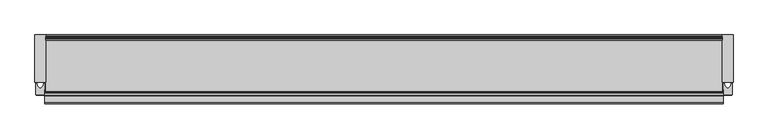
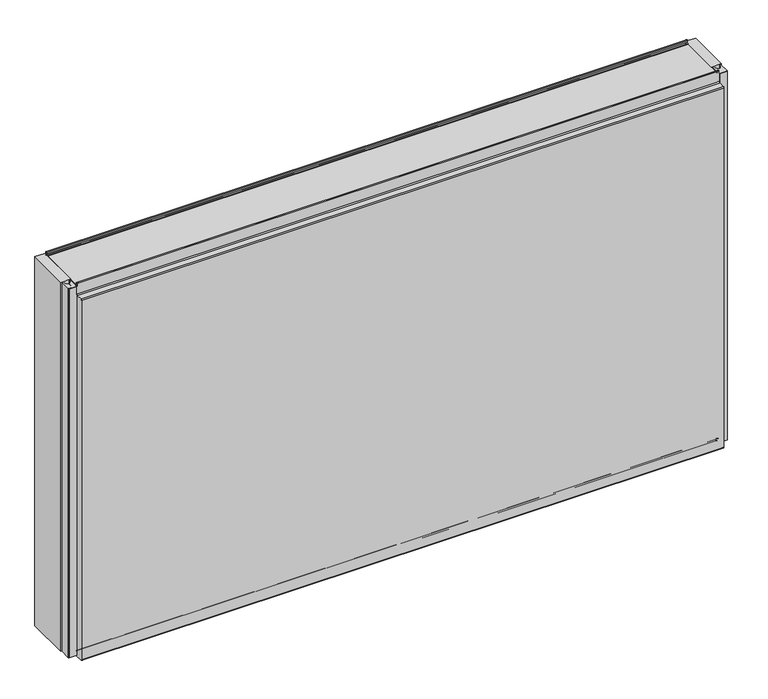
"""IFC4 building model written with IfcOpenShell, lengths in millimetres: plate geometry, Fronttop : Fronttop 200/1200."""

from ifc_helpers import new_model, si_unit, point, frame, frame_2d, origin, origin_with_axes, place, context, project, spatial, polyline, circle_curve, trimmed, segment, composite_curve, outline, extrude, source, transform, mapped, element, save
from ifc_brep_helpers import plane_surface, cylinder_surface, revolved_surface, advanced_brep


def plate_2dff6574(model_context):
    return source(origin(), model_context, "Body", "SolidModel", [
        advanced_brep(
        [(-986.5, -174.0, 1208.0), (-986.5, -174.0, 1200.0), (-986.5, -175.0, 1200.0), (-986.5, -175.0, 1208.0), (-986.5, -170.0, 1208.0), (-986.5, -170.0, 1204.0), (-986.5, -167.0, 1201.0), (-986.5, -165.0, 1201.0), (-986.5, -165.0, 1200.0), (-986.5, -167.0, 1200.0), (-986.5, -171.0, 1204.0), (-986.5, -171.0, 1208.0), (986.5, -175.0, 1208.0), (986.5, -175.0, 1200.0), (986.5, -174.0, 1200.0), (986.5, -174.0, 1208.0), (986.5, -171.0, 1208.0), (986.5, -171.0, 1204.0), (986.5, -167.0, 1200.0), (986.5, -165.0, 1200.0), (986.5, -165.0, 1201.0), (986.5, -167.0, 1201.0), (986.5, -170.0, 1204.0), (986.5, -170.0, 1208.0), (-986.5, -167.0, 2.0), (-986.5, -165.0, 2.0), (986.5, -165.0, 2.0), (986.5, -167.0, 2.0), (986.5, -169.0, 4.0), (-986.5, -169.0, 4.0), (986.5, -169.0, 8.0), (-986.5, -169.0, 8.0), (986.5, -176.0, 8.0), (-986.5, -176.0, 8.0), (986.5, -176.0, 0.0), (-986.5, -176.0, 0.0), (986.5, -179.0, -3.0), (-986.5, -179.0, -3.0), (986.5, -175.0, -3.0), (987.5, -175.0, -3.0), (987.5, -197.0, -3.0), (986.5, -197.0, -3.0), (-986.5, -197.0, -3.0), (-987.5, -197.0, -3.0), (-987.5, -175.0, -3.0), (-986.5, -175.0, -3.0), (986.5, -200.0, 0.0), (-986.5, -200.0, 0.0), (987.5, -200.0, 0.0), (987.5, -200.0, 1169.0), (986.5, -200.0, 1169.0), (-986.5, -200.0, 1169.0), (-987.5, -200.0, 1169.0), (-987.5, -200.0, 0.0), (986.5, -197.0, 1172.0), (-986.5, -197.0, 1172.0), (987.5, -197.0, 1172.0), (987.5, -178.0, 1172.0), (986.5, -178.0, 1172.0), (-986.5, -178.0, 1172.0), (-987.5, -178.0, 1172.0), (-987.5, -197.0, 1172.0), (986.5, -175.0, 1175.0), (-986.5, -175.0, 1175.0), (987.5, -175.0, 1175.0), (987.5, -175.0, 1200.0), (-987.5, -175.0, 1200.0), (-987.5, -175.0, 1175.0), (986.5, -174.0, 1175.0), (-986.5, -174.0, 1175.0), (986.5, -178.0, 1171.0), (-986.5, -178.0, 1171.0), (986.5, -197.0, 1171.0), (-986.5, -197.0, 1171.0), (986.5, -199.0, 1169.0), (-986.5, -199.0, 1169.0), (986.5, -199.0, 0.0), (-986.5, -199.0, 0.0), (986.5, -197.0, -2.0), (-986.5, -197.0, -2.0), (986.5, -179.0, -2.0), (-986.5, -179.0, -2.0), (986.5, -177.0, 0.0), (-986.5, -177.0, 0.0), (986.5, -177.0, 8.0), (-986.5, -177.0, 8.0), (986.5, -168.0, 8.0), (-986.5, -168.0, 8.0), (986.5, -168.0, 4.0), (-986.5, -168.0, 4.0), (986.5, -167.0, 3.0), (-986.5, -167.0, 3.0), (986.5, -165.0, 3.0), (-986.5, -165.0, 3.0), (987.5, -175.0, 0.0), (987.5, -160.0, 0.0), (987.5, -160.0, 1200.0), (986.5, -160.0, 1200.0), (986.5, -160.0, 0.0), (986.5, -175.0, 0.0), (-987.5, -160.0, 1200.0), (-987.5, -160.0, 0.0), (-987.5, -175.0, 0.0), (-986.5, -160.0, 1200.0), (-986.5, -175.0, 0.0), (-986.5, -160.0, 0.0)],
        [
            (0, 1),
            (1, 2),
            (2, 3),
            (3, 4, circle_curve(frame((-986.5, -172.5, 1208.0), z_axis=(-1.0, 0.0, 0.0), x_axis=(0.0, 1.0, 0.0)), 2.5)),
            (4, 5),
            (5, 6, circle_curve(frame((-986.5, -167.0, 1204.0), z_axis=(1.0, 0.0, 0.0), x_axis=(0.0, 1.0, 0.0)), 3.0)),
            (6, 7),
            (7, 8),
            (8, 9),
            (9, 10, circle_curve(frame((-986.5, -167.0, 1204.0), z_axis=(-1.0, 0.0, 0.0), x_axis=(0.0, 1.0, 0.0)), 4.0)),
            (10, 11),
            (11, 0, circle_curve(frame((-986.5, -172.5, 1208.0), z_axis=(1.0, 0.0, 0.0), x_axis=(0.0, 1.0, 0.0)), 1.5)),
            (12, 13),
            (13, 14),
            (14, 15),
            (15, 16, circle_curve(frame((986.5, -172.5, 1208.0), z_axis=(-1.0, 0.0, 0.0), x_axis=(0.0, 1.0, 0.0)), 1.5)),
            (16, 17),
            (17, 18, circle_curve(frame((986.5, -167.0, 1204.0), z_axis=(1.0, 0.0, 0.0), x_axis=(0.0, 1.0, 0.0)), 4.0)),
            (18, 19),
            (19, 20),
            (20, 21),
            (21, 22, circle_curve(frame((986.5, -167.0, 1204.0), z_axis=(-1.0, 0.0, 0.0), x_axis=(0.0, 1.0, 0.0)), 3.0)),
            (22, 23),
            (23, 12, circle_curve(frame((986.5, -172.5, 1208.0), z_axis=(1.0, 0.0, 0.0), x_axis=(0.0, 1.0, 0.0)), 2.5)),
            (24, 25),
            (25, 26),
            (26, 27),
            (27, 24),
            (27, 28, circle_curve(frame((986.5, -167.0, 4.0), z_axis=(-1.0, 0.0, 0.0), x_axis=(0.0, 1.0, 0.0)), 2.0)),
            (28, 29),
            (29, 24, circle_curve(frame((-986.5, -167.0, 4.0), z_axis=(1.0, 0.0, 0.0), x_axis=(0.0, 1.0, 0.0)), 2.0)),
            (28, 30),
            (30, 31),
            (31, 29),
            (30, 32, circle_curve(frame((986.5, -172.5, 8.0), z_axis=(1.0, 0.0, 0.0), x_axis=(0.0, 1.0, 0.0)), 3.5)),
            (32, 33),
            (33, 31, circle_curve(frame((-986.5, -172.5, 8.0), z_axis=(-1.0, 0.0, 0.0), x_axis=(0.0, 1.0, 0.0)), 3.5)),
            (32, 34),
            (34, 35),
            (35, 33),
            (34, 36, circle_curve(frame((986.5, -179.0, 0.0), z_axis=(-1.0, 0.0, 0.0), x_axis=(0.0, 1.0, 0.0)), 3.0)),
            (36, 37),
            (37, 35, circle_curve(frame((-986.5, -179.0, 0.0), z_axis=(1.0, 0.0, 0.0), x_axis=(0.0, 1.0, 0.0)), 3.0)),
            (36, 38),
            (38, 39),
            (39, 40),
            (40, 41),
            (41, 42),
            (42, 43),
            (43, 44),
            (44, 45),
            (45, 37),
            (41, 46, circle_curve(frame((986.5, -197.0, 0.0), z_axis=(-1.0, 0.0, 0.0), x_axis=(0.0, 1.0, 0.0)), 3.0)),
            (46, 47),
            (47, 42, circle_curve(frame((-986.5, -197.0, 0.0), z_axis=(1.0, 0.0, 0.0), x_axis=(0.0, 1.0, 0.0)), 3.0)),
            (46, 48),
            (48, 49),
            (49, 50),
            (50, 51),
            (51, 52),
            (52, 53),
            (53, 47),
            (50, 54, circle_curve(frame((986.5, -197.0, 1169.0), z_axis=(-1.0, 0.0, 0.0), x_axis=(0.0, 1.0, 0.0)), 3.0)),
            (54, 55),
            (55, 51, circle_curve(frame((-986.5, -197.0, 1169.0), z_axis=(1.0, 0.0, 0.0), x_axis=(0.0, 1.0, 0.0)), 3.0)),
            (54, 56),
            (56, 57),
            (57, 58),
            (58, 59),
            (59, 60),
            (60, 61),
            (61, 55),
            (58, 62, circle_curve(frame((986.5, -178.0, 1175.0), z_axis=(1.0, 0.0, 0.0), x_axis=(0.0, 1.0, 0.0)), 3.0)),
            (62, 63),
            (63, 59, circle_curve(frame((-986.5, -178.0, 1175.0), z_axis=(-1.0, 0.0, 0.0), x_axis=(0.0, 1.0, 0.0)), 3.0)),
            (62, 64),
            (64, 65),
            (65, 13),
            (12, 3),
            (2, 66),
            (66, 67),
            (67, 63),
            (23, 4),
            (22, 5),
            (21, 6),
            (20, 7),
            (19, 8),
            (19, 18),
            (18, 9),
            (9, 8),
            (17, 10),
            (16, 11),
            (15, 0),
            (14, 68),
            (68, 69),
            (69, 1),
            (68, 70, circle_curve(frame((986.5, -178.0, 1175.0), z_axis=(-1.0, 0.0, 0.0), x_axis=(0.0, 1.0, 0.0)), 4.0)),
            (70, 71),
            (71, 69, circle_curve(frame((-986.5, -178.0, 1175.0), z_axis=(1.0, 0.0, 0.0), x_axis=(0.0, 1.0, 0.0)), 4.0)),
            (70, 72),
            (72, 73),
            (73, 71),
            (72, 74, circle_curve(frame((986.5, -197.0, 1169.0), z_axis=(1.0, 0.0, 0.0), x_axis=(0.0, 1.0, 0.0)), 2.0)),
            (74, 75),
            (75, 73, circle_curve(frame((-986.5, -197.0, 1169.0), z_axis=(-1.0, 0.0, 0.0), x_axis=(0.0, 1.0, 0.0)), 2.0)),
            (74, 76),
            (76, 77),
            (77, 75),
            (76, 78, circle_curve(frame((986.5, -197.0, 0.0), z_axis=(1.0, 0.0, 0.0), x_axis=(0.0, 1.0, 0.0)), 2.0)),
            (78, 79),
            (79, 77, circle_curve(frame((-986.5, -197.0, 0.0), z_axis=(-1.0, 0.0, 0.0), x_axis=(0.0, 1.0, 0.0)), 2.0)),
            (78, 80),
            (80, 81),
            (81, 79),
            (80, 82, circle_curve(frame((986.5, -179.0, 0.0), z_axis=(1.0, 0.0, 0.0), x_axis=(0.0, 1.0, 0.0)), 2.0)),
            (82, 83),
            (83, 81, circle_curve(frame((-986.5, -179.0, 0.0), z_axis=(-1.0, 0.0, 0.0), x_axis=(0.0, 1.0, 0.0)), 2.0)),
            (82, 84),
            (84, 85),
            (85, 83),
            (84, 86, circle_curve(frame((986.5, -172.5, 8.0), z_axis=(-1.0, 0.0, 0.0), x_axis=(0.0, 1.0, 0.0)), 4.5)),
            (86, 87),
            (87, 85, circle_curve(frame((-986.5, -172.5, 8.0), z_axis=(1.0, 0.0, 0.0), x_axis=(0.0, 1.0, 0.0)), 4.5)),
            (86, 88),
            (88, 89),
            (89, 87),
            (88, 90, circle_curve(frame((986.5, -167.0, 4.0), z_axis=(1.0, 0.0, 0.0), x_axis=(0.0, 1.0, 0.0)), 1.0)),
            (90, 91),
            (91, 89, circle_curve(frame((-986.5, -167.0, 4.0), z_axis=(-1.0, 0.0, 0.0), x_axis=(0.0, 1.0, 0.0)), 1.0)),
            (90, 92),
            (92, 93),
            (93, 91),
            (25, 93),
            (92, 26),
            (64, 57, circle_curve(frame((987.5, -178.0, 1175.0), z_axis=(-1.0, 0.0, 0.0), x_axis=(0.0, -1.0, 0.0)), 3.0)),
            (56, 49, circle_curve(frame((987.5, -197.0, 1169.0), z_axis=(1.0, 0.0, 0.0), x_axis=(0.0, -1.0, 0.0)), 3.0)),
            (48, 40, circle_curve(frame((987.5, -197.0, 0.0), z_axis=(1.0, 0.0, 0.0), x_axis=(0.0, -1.0, 0.0)), 3.0)),
            (39, 94),
            (94, 95),
            (95, 96),
            (96, 65),
            (14, 18),
            (19, 97),
            (97, 98),
            (98, 99),
            (99, 38),
            (96, 97),
            (95, 98),
            (94, 99),
            (66, 100),
            (100, 101),
            (101, 102),
            (102, 44),
            (43, 53, circle_curve(frame((-987.5, -197.0, 0.0), z_axis=(-1.0, 0.0, 0.0), x_axis=(0.0, -1.0, 0.0)), 3.0)),
            (52, 61, circle_curve(frame((-987.5, -197.0, 1169.0), z_axis=(-1.0, 0.0, 0.0), x_axis=(0.0, -1.0, 0.0)), 3.0)),
            (60, 67, circle_curve(frame((-987.5, -178.0, 1175.0), z_axis=(1.0, 0.0, 0.0), x_axis=(0.0, -1.0, 0.0)), 3.0)),
            (103, 8),
            (9, 1),
            (45, 104),
            (104, 105),
            (105, 103),
            (103, 100),
            (105, 101),
            (104, 102),
        ],
        [
            plane_surface(frame((-986.5, 0.0, 0.0), z_axis=(-1.0, 0.0, 0.0), x_axis=(0.0, 0.0, 1.0))),
            plane_surface(frame((986.5, 0.0, 0.0), z_axis=(1.0, 0.0, 0.0), x_axis=(0.0, 0.0, 1.0))),
            plane_surface(frame((-986.5, -167.0, 2.0), z_axis=(0.0, 0.0, -1.0), x_axis=(1.0, 0.0, 0.0))),
            cylinder_surface(frame((-986.5, -167.0, 4.0), z_axis=(-1.0, 0.0, 0.0), x_axis=(0.0, 1.0, 0.0)), 2.0),
            plane_surface(frame((-986.5, -169.0, 8.0), z_axis=(0.0, -1.0, 0.0), x_axis=(1.0, 0.0, 0.0))),
            revolved_surface(polyline([(986.5, -169.0, 8.0), (-986.5, -169.0, 8.0)]), (-986.5, -172.5, 8.0), (1.0, 0.0, 0.0)),
            plane_surface(frame((-986.5, -176.0, 0.0), z_axis=(0.0, 1.0, 0.0), x_axis=(1.0, 0.0, 0.0))),
            cylinder_surface(frame((-986.5, -179.0, 0.0), z_axis=(-1.0, 0.0, 0.0), x_axis=(0.0, 1.0, 0.0)), 3.0),
            plane_surface(frame((-986.5, -197.0, -3.0), z_axis=(0.0, 0.0, -1.0), x_axis=(1.0, 0.0, 0.0))),
            cylinder_surface(frame((-986.5, -197.0, 0.0), z_axis=(-1.0, 0.0, 0.0), x_axis=(0.0, 1.0, 0.0)), 3.0),
            plane_surface(frame((-986.5, -200.0, 1169.0), z_axis=(0.0, -1.0, 0.0), x_axis=(1.0, 0.0, 0.0))),
            cylinder_surface(frame((-986.5, -197.0, 1169.0), z_axis=(-1.0, 0.0, 0.0), x_axis=(0.0, 1.0, 0.0)), 3.0),
            plane_surface(frame((-986.5, -178.0, 1172.0), z_axis=(0.0, 0.0, 1.0), x_axis=(1.0, 0.0, 0.0))),
            revolved_surface(polyline([(986.5, -175.0, 1175.0), (-986.5, -175.0, 1175.0)]), (-986.5, -178.0, 1175.0), (1.0, 0.0, 0.0)),
            plane_surface(frame((-986.5, -175.0, 1208.0), z_axis=(0.0, -1.0, 0.0), x_axis=(1.0, 0.0, 0.0))),
            cylinder_surface(frame((-986.5, -172.5, 1208.0), z_axis=(-1.0, 0.0, 0.0), x_axis=(0.0, 1.0, 0.0)), 2.5),
            plane_surface(frame((-986.5, -170.0, 1204.0), z_axis=(0.0, 1.0, 0.0), x_axis=(1.0, 0.0, 0.0))),
            revolved_surface(polyline([(986.5, -164.0, 1204.0), (-986.5, -164.0, 1204.0)]), (-986.5, -167.0, 1204.0), (1.0, 0.0, 0.0)),
            plane_surface(frame((-986.5, -165.0, 1201.0), z_axis=(0.0, 0.0, 1.0), x_axis=(1.0, 0.0, 0.0))),
            plane_surface(frame((-986.5, -165.0, 1200.0), z_axis=(0.0, 1.0, 0.0), x_axis=(1.0, 0.0, 0.0))),
            plane_surface(frame((-986.5, -167.0, 1200.0), z_axis=(0.0, 0.0, -1.0), x_axis=(1.0, 0.0, 0.0))),
            cylinder_surface(frame((-986.5, -167.0, 1204.0), z_axis=(-1.0, 0.0, 0.0), x_axis=(0.0, 1.0, 0.0)), 4.0),
            plane_surface(frame((-986.5, -171.0, 1208.0), z_axis=(0.0, -1.0, 0.0), x_axis=(1.0, 0.0, 0.0))),
            revolved_surface(polyline([(986.5, -171.0, 1208.0), (-986.5, -171.0, 1208.0)]), (-986.5, -172.5, 1208.0), (1.0, 0.0, 0.0)),
            plane_surface(frame((-986.5, -174.0, 1175.0), z_axis=(0.0, 1.0, 0.0), x_axis=(1.0, 0.0, 0.0))),
            cylinder_surface(frame((-986.5, -178.0, 1175.0), z_axis=(-1.0, 0.0, 0.0), x_axis=(0.0, 1.0, 0.0)), 4.0),
            plane_surface(frame((-986.5, -197.0, 1171.0), z_axis=(0.0, 0.0, -1.0), x_axis=(1.0, 0.0, 0.0))),
            revolved_surface(polyline([(986.5, -195.0, 1169.0), (-986.5, -195.0, 1169.0)]), (-986.5, -197.0, 1169.0), (1.0, 0.0, 0.0)),
            plane_surface(frame((-986.5, -199.0, 0.0), z_axis=(0.0, 1.0, 0.0), x_axis=(1.0, 0.0, 0.0))),
            revolved_surface(polyline([(986.5, -195.0, 0.0), (-986.5, -195.0, 0.0)]), (-986.5, -197.0, 0.0), (1.0, 0.0, 0.0)),
            plane_surface(frame((-986.5, -179.0, -2.0), z_axis=(0.0, 0.0, 1.0), x_axis=(1.0, 0.0, 0.0))),
            revolved_surface(polyline([(986.5, -177.0, 0.0), (-986.5, -177.0, 0.0)]), (-986.5, -179.0, 0.0), (1.0, 0.0, 0.0)),
            plane_surface(frame((-986.5, -177.0, 8.0), z_axis=(0.0, -1.0, 0.0), x_axis=(1.0, 0.0, 0.0))),
            cylinder_surface(frame((-986.5, -172.5, 8.0), z_axis=(-1.0, 0.0, 0.0), x_axis=(0.0, 1.0, 0.0)), 4.5),
            plane_surface(frame((-986.5, -168.0, 4.0), z_axis=(0.0, 1.0, 0.0), x_axis=(1.0, 0.0, 0.0))),
            revolved_surface(polyline([(986.5, -166.0, 4.0), (-986.5, -166.0, 4.0)]), (-986.5, -167.0, 4.0), (1.0, 0.0, 0.0)),
            plane_surface(frame((-986.5, -165.0, 3.0), z_axis=(0.0, 0.0, 1.0), x_axis=(1.0, 0.0, 0.0))),
            plane_surface(frame((-986.5, -165.0, 2.0), z_axis=(0.0, 1.0, 0.0), x_axis=(1.0, 0.0, 0.0))),
            plane_surface(frame((987.5, -175.0, 1200.0), z_axis=(1.0, 0.0, 0.0), x_axis=(0.0, 1.0, 0.0))),
            plane_surface(frame((986.5, -175.0, 1200.0), z_axis=(-1.0, 0.0, 0.0), x_axis=(0.0, -1.0, 0.0))),
            plane_surface(frame((987.5, -175.0, 1200.0), z_axis=(0.0, 0.0, 1.0), x_axis=(-1.0, 0.0, 0.0))),
            plane_surface(frame((987.5, -160.0, 1200.0), z_axis=(0.0, 1.0, 0.0), x_axis=(-1.0, 0.0, 0.0))),
            plane_surface(frame((987.5, -160.0, 0.0), z_axis=(0.0, 0.0, -1.0), x_axis=(-1.0, 0.0, 0.0))),
            cylinder_surface(frame((986.5, -197.0, 0.0), z_axis=(1.0, 0.0, 0.0), x_axis=(0.0, -1.0, 0.0)), 3.0),
            cylinder_surface(frame((986.5, -197.0, 1169.0), z_axis=(1.0, 0.0, 0.0), x_axis=(0.0, -1.0, 0.0)), 3.0),
            revolved_surface(polyline([(986.5, -181.0, 1175.0), (987.5, -181.0, 1175.0)]), (986.5, -178.0, 1175.0), (-1.0, 0.0, 0.0)),
            plane_surface(frame((-987.5, -175.0, 1200.0), z_axis=(-1.0, 0.0, 0.0), x_axis=(0.0, -1.0, 0.0))),
            plane_surface(frame((-986.5, -175.0, 1200.0), z_axis=(1.0, 0.0, 0.0), x_axis=(0.0, 1.0, 0.0))),
            plane_surface(frame((-986.5, -175.0, 1200.0), z_axis=(0.0, 0.0, 1.0), x_axis=(-1.0, 0.0, 0.0))),
            plane_surface(frame((-986.5, -160.0, 1200.0), z_axis=(0.0, 1.0, 0.0), x_axis=(-1.0, 0.0, 0.0))),
            plane_surface(frame((-986.5, -160.0, 0.0), z_axis=(0.0, 0.0, -1.0), x_axis=(-1.0, 0.0, 0.0))),
            cylinder_surface(frame((-987.5, -197.0, 0.0), z_axis=(1.0, 0.0, 0.0), x_axis=(0.0, -1.0, 0.0)), 3.0),
            cylinder_surface(frame((-987.5, -197.0, 1169.0), z_axis=(1.0, 0.0, 0.0), x_axis=(0.0, -1.0, 0.0)), 3.0),
            revolved_surface(polyline([(-987.5, -181.0, 1175.0), (-986.5, -181.0, 1175.0)]), (-987.5, -178.0, 1175.0), (-1.0, 0.0, 0.0)),
            plane_surface(frame((987.5, -175.0, 0.0), z_axis=(0.0, 1.0, 0.0), x_axis=(-1.0, 0.0, 0.0))),
            plane_surface(frame((-986.5, -175.0, 0.0), z_axis=(0.0, 1.0, 0.0), x_axis=(-1.0, 0.0, 0.0))),
        ],
        [
            (0, [[1, 2, 3, 4, 5, 6, 7, 8, 9, 10, 11, 12]]),
            (1, [[13, 14, 15, 16, 17, 18, 19, 20, 21, 22, 23, 24]]),
            (2, [[25, 26, 27, 28]]),
            (3, [[29, 30, 31, -28]]),
            (4, [[32, 33, 34, -30]]),
            (5, [[35, 36, 37, -33]]),
            (6, [[38, 39, 40, -36]]),
            (7, [[41, 42, 43, -39]]),
            (8, [[44, 45, 46, 47, 48, 49, 50, 51, 52, -42]]),
            (9, [[53, 54, 55, -48]]),
            (10, [[56, 57, 58, 59, 60, 61, 62, -54]]),
            (11, [[63, 64, 65, -59]]),
            (12, [[66, 67, 68, 69, 70, 71, 72, -64]]),
            (13, [[73, 74, 75, -69]]),
            (14, [[76, 77, 78, -13, 79, -3, 80, 81, 82, -74]]),
            (15, [[-79, -24, 83, -4]]),
            (16, [[-83, -23, 84, -5]]),
            (17, [[-84, -22, 85, -6]]),
            (18, [[-85, -21, 86, -7]]),
            (19, [[-86, -20, 87, -8]]),
            (20, [[88, 89, 90, -87]]),
            (21, [[-89, -18, 91, -10]]),
            (22, [[-91, -17, 92, -11]]),
            (23, [[-92, -16, 93, -12]]),
            (24, [[-15, 94, 95, 96, -1, -93]]),
            (25, [[97, 98, 99, -95]]),
            (26, [[100, 101, 102, -98]]),
            (27, [[103, 104, 105, -101]]),
            (28, [[106, 107, 108, -104]]),
            (29, [[109, 110, 111, -107]]),
            (30, [[112, 113, 114, -110]]),
            (31, [[115, 116, 117, -113]]),
            (32, [[118, 119, 120, -116]]),
            (33, [[121, 122, 123, -119]]),
            (34, [[124, 125, 126, -122]]),
            (35, [[127, 128, 129, -125]]),
            (36, [[130, 131, 132, -128]]),
            (37, [[133, -131, 134, -26]]),
            (38, [[-77, 135, -67, 136, -57, 137, -46, 138, 139, 140, 141]]),
            (39, [[-44, -41, -38, -35, -32, -29, -27, -134, -130, -127, -124, -121, -118, -115, -112, -109, -106, -103, -100, -97, -94, 142, -88, 143, 144, 145, 146]]),
            (40, [[147, -143, -19, -142, -14, -78, -141]]),
            (41, [[148, -144, -147, -140]]),
            (42, [[149, -145, -148, -139]]),
            (43, [[-56, -53, -47, -137]]),
            (44, [[-66, -63, -58, -136]]),
            (45, [[-76, -73, -68, -135]]),
            (46, [[150, 151, 152, 153, -50, 154, -61, 155, -71, 156, -81]]),
            (47, [[157, -90, 158, -96, -99, -102, -105, -108, -111, -114, -117, -120, -123, -126, -129, -132, -133, -25, -31, -34, -37, -40, -43, -52, 159, 160, 161]]),
            (48, [[-80, -2, -158, -9, -157, 162, -150]]),
            (49, [[-162, -161, 163, -151]]),
            (50, [[-163, -160, 164, -152]]),
            (51, [[-49, -55, -62, -154]]),
            (52, [[-60, -65, -72, -155]]),
            (53, [[-70, -75, -82, -156]]),
            (54, [[-45, -146, -149, -138]]),
            (55, [[-164, -159, -51, -153]]),
        ],
    ),
        extrude(outline(composite_curve([segment(polyline([(-1012.5001545, -173.5), (-1012.5001545, -140.0), (-1009.75, -140.0), (-1009.75, -142.5)]), True, "CONTINUOUS"), segment(trimmed(circle_curve(frame_2d((-991.9661979, -139.3183984)), 18.0661619), [point((-1009.75, -142.5))], [point((-1000.0, -155.5))], True, "CARTESIAN"), True, "CONTINUOUS"), segment(trimmed(circle_curve(frame_2d((-1008.0338021, -139.3183984)), 18.0661619), [point((-1000.0, -155.5))], [point((-990.25, -142.5))], True, "CARTESIAN"), True, "CONTINUOUS"), segment(polyline([(-990.25, -142.5), (-990.25, -140.0), (-987.4998455, -140.0), (-987.4998455, -173.5), (-999.25, -173.5), (-999.25, -157.5), (-1000.75, -157.5), (-1000.75, -173.5), (-1012.5001545, -173.5)]), True, "CONTINUOUS")], self_intersect=False)), origin_with_axes(), (0.0, 0.0, 1.0), 1200.0),
        extrude(outline(polyline([(-984.5, 0.0), (-984.5, -138.0), (-1015.5, -138.0), (-1015.5, 0.0), (-984.5, 0.0)])), origin_with_axes(), (0.0, 0.0, 1.0), 1200.0),
        extrude(outline(polyline([(-1011.5051154, -175.0), (-1011.5051154, -173.5), (-1000.65, -173.5), (-1000.65, -159.0759655), (-999.3497504, -159.0759655), (-999.3497504, -173.5), (-988.4948846, -173.5), (-988.4948846, -175.0), (-1011.5051154, -175.0)])), origin_with_axes(), (0.0, 0.0, 1.0), 1200.0),
        extrude(outline(composite_curve([segment(polyline([(987.4998455, -173.5), (987.4998455, -140.0), (990.25, -140.0), (990.25, -142.5)]), True, "CONTINUOUS"), segment(trimmed(circle_curve(frame_2d((1008.0338021, -139.3183984)), 18.0661619), [point((990.25, -142.5))], [point((1000.0, -155.5))], True, "CARTESIAN"), True, "CONTINUOUS"), segment(trimmed(circle_curve(frame_2d((991.9661979, -139.3183984)), 18.0661619), [point((1000.0, -155.5))], [point((1009.75, -142.5))], True, "CARTESIAN"), True, "CONTINUOUS"), segment(polyline([(1009.75, -142.5), (1009.75, -140.0), (1012.5001545, -140.0), (1012.5001545, -173.5), (1000.75, -173.5), (1000.75, -157.5), (999.25, -157.5), (999.25, -173.5), (987.4998455, -173.5)]), True, "CONTINUOUS")], self_intersect=False)), origin_with_axes(), (0.0, 0.0, 1.0), 1200.0),
        extrude(outline(polyline([(1015.5, 0.0), (1015.5, -138.0), (984.5, -138.0), (984.5, 0.0), (1015.5, 0.0)])), origin_with_axes(), (0.0, 0.0, 1.0), 1200.0),
        extrude(outline(polyline([(988.4948846, -175.0), (988.4948846, -173.5), (999.35, -173.5), (999.35, -159.0759655), (1000.6502496, -159.0759655), (1000.6502496, -173.5), (1011.5051154, -173.5), (1011.5051154, -175.0), (988.4948846, -175.0)])), origin_with_axes(), (0.0, 0.0, 1.0), 1200.0),
        advanced_brep(
        [(-984.5, -13.0, 1201.0), (-984.5, -10.0, 1204.0), (-984.5, -10.0, 1208.0), (-984.5, -5.0, 1208.0), (-984.5, -5.0, 1199.5), (-984.5, -2.2239212, 1197.0152907), (-984.5, 0.0, 1195.0), (-984.5, 0.0, -0.5), (-984.5, -4.0, -0.5), (-984.5, -4.0, 8.0), (-984.5, -11.0, 8.0), (-984.5, -11.0, 4.0), (-984.5, -13.0, 2.0), (-984.5, -15.0, 2.0), (-984.5, -15.0, 3.0), (-984.5, -13.0, 3.0), (-984.5, -12.0, 4.0), (-984.5, -12.0, 8.0), (-984.5, -3.0, 8.0), (-984.5, -3.0, -0.5), (-984.5, -1.0, -0.5), (-984.5, -1.0, 1195.0), (-984.5, -2.1104315, 1195.9938837), (-984.5, -6.0, 1199.5), (-984.5, -6.0, 1208.0), (-984.5, -9.0, 1208.0), (-984.5, -9.0, 1204.0), (-984.5, -13.0, 1200.0), (-984.5, -15.0, 1200.0), (-984.5, -15.0, 1201.0), (984.5, -13.0, 1201.0), (984.5, -15.0, 1201.0), (984.5, -15.0, 1200.0), (984.5, -13.0, 1200.0), (984.5, -9.0, 1204.0), (984.5, -9.0, 1208.0), (984.5, -6.0, 1208.0), (984.5, -6.0, 1199.5), (984.5, -2.1134897, 1196.0214069), (984.5, -1.0, 1195.0), (984.5, -1.0, -0.5), (984.5, -3.0, -0.5), (984.5, -3.0, 8.0), (984.5, -12.0, 8.0), (984.5, -12.0, 4.0), (984.5, -13.0, 3.0), (984.5, -15.0, 3.0), (984.5, -15.0, 2.0), (984.5, -13.0, 2.0), (984.5, -11.0, 4.0), (984.5, -11.0, 8.0), (984.5, -4.0, 8.0), (984.5, -4.0, -0.5), (984.5, 0.0, -0.5), (984.5, 0.0, 1195.0), (984.5, -2.220863, 1196.9877675), (984.5, -5.0, 1199.5), (984.5, -5.0, 1208.0), (984.5, -10.0, 1208.0), (984.5, -10.0, 1204.0)],
        [
            (0, 1, circle_curve(frame((-984.5, -13.0, 1204.0), z_axis=(1.0, 0.0, 0.0), x_axis=(0.0, 1.0, 0.0)), 3.0)),
            (1, 2),
            (2, 3, circle_curve(frame((-984.5, -7.5, 1208.0), z_axis=(-1.0, 0.0, 0.0), x_axis=(0.0, 1.0, 0.0)), 2.5)),
            (3, 4),
            (4, 5, circle_curve(frame((-984.5, -2.5, 1199.5), z_axis=(1.0, 0.0, 0.0), x_axis=(0.0, 1.0, 0.0)), 2.5)),
            (5, 6, circle_curve(frame((-984.5, -2.0, 1195.0), z_axis=(-1.0, 0.0, 0.0), x_axis=(0.0, 1.0, 0.0)), 2.0)),
            (6, 7),
            (7, 8, circle_curve(frame((-984.5, -2.0, -0.5), z_axis=(-1.0, 0.0, 0.0), x_axis=(0.0, 1.0, 0.0)), 2.0)),
            (8, 9),
            (9, 10, circle_curve(frame((-984.5, -7.5, 8.0), z_axis=(1.0, 0.0, 0.0), x_axis=(0.0, 1.0, 0.0)), 3.5)),
            (10, 11),
            (11, 12, circle_curve(frame((-984.5, -13.0, 4.0), z_axis=(-1.0, 0.0, 0.0), x_axis=(0.0, 1.0, 0.0)), 2.0)),
            (12, 13),
            (13, 14),
            (14, 15),
            (15, 16, circle_curve(frame((-984.5, -13.0, 4.0), z_axis=(1.0, 0.0, 0.0), x_axis=(0.0, 1.0, 0.0)), 1.0)),
            (16, 17),
            (17, 18, circle_curve(frame((-984.5, -7.5, 8.0), z_axis=(-1.0, 0.0, 0.0), x_axis=(0.0, 1.0, 0.0)), 4.5)),
            (18, 19),
            (19, 20, circle_curve(frame((-984.5, -2.0, -0.5), z_axis=(1.0, 0.0, 0.0), x_axis=(0.0, 1.0, 0.0)), 1.0)),
            (20, 21),
            (21, 22, circle_curve(frame((-984.5, -2.0, 1195.0), z_axis=(1.0, 0.0, 0.0), x_axis=(0.0, 1.0, 0.0)), 1.0)),
            (22, 23, circle_curve(frame((-984.5, -2.5, 1199.5), z_axis=(-1.0, 0.0, 0.0), x_axis=(0.0, 1.0, 0.0)), 3.5)),
            (23, 24),
            (24, 25, circle_curve(frame((-984.5, -7.5, 1208.0), z_axis=(1.0, 0.0, 0.0), x_axis=(0.0, 1.0, 0.0)), 1.5)),
            (25, 26),
            (26, 27, circle_curve(frame((-984.5, -13.0, 1204.0), z_axis=(-1.0, 0.0, 0.0), x_axis=(0.0, 1.0, 0.0)), 4.0)),
            (27, 28),
            (28, 29),
            (29, 0),
            (30, 31),
            (31, 32),
            (32, 33),
            (33, 34, circle_curve(frame((984.5, -13.0, 1204.0), z_axis=(1.0, 0.0, 0.0), x_axis=(0.0, 1.0, 0.0)), 4.0)),
            (34, 35),
            (35, 36, circle_curve(frame((984.5, -7.5, 1208.0), z_axis=(-1.0, 0.0, 0.0), x_axis=(0.0, 1.0, 0.0)), 1.5)),
            (36, 37),
            (37, 38, circle_curve(frame((984.5, -2.5, 1199.5), z_axis=(1.0, 0.0, 0.0), x_axis=(0.0, 1.0, 0.0)), 3.5)),
            (38, 39, circle_curve(frame((984.5, -2.0, 1195.0), z_axis=(-1.0, 0.0, 0.0), x_axis=(0.0, 1.0, 0.0)), 1.0)),
            (39, 40),
            (40, 41, circle_curve(frame((984.5, -2.0, -0.5), z_axis=(-1.0, 0.0, 0.0), x_axis=(0.0, 1.0, 0.0)), 1.0)),
            (41, 42),
            (42, 43, circle_curve(frame((984.5, -7.5, 8.0), z_axis=(1.0, 0.0, 0.0), x_axis=(0.0, 1.0, 0.0)), 4.5)),
            (43, 44),
            (44, 45, circle_curve(frame((984.5, -13.0, 4.0), z_axis=(-1.0, 0.0, 0.0), x_axis=(0.0, 1.0, 0.0)), 1.0)),
            (45, 46),
            (46, 47),
            (47, 48),
            (48, 49, circle_curve(frame((984.5, -13.0, 4.0), z_axis=(1.0, 0.0, 0.0), x_axis=(0.0, 1.0, 0.0)), 2.0)),
            (49, 50),
            (50, 51, circle_curve(frame((984.5, -7.5, 8.0), z_axis=(-1.0, 0.0, 0.0), x_axis=(0.0, 1.0, 0.0)), 3.5)),
            (51, 52),
            (52, 53, circle_curve(frame((984.5, -2.0, -0.5), z_axis=(1.0, 0.0, 0.0), x_axis=(0.0, 1.0, 0.0)), 2.0)),
            (53, 54),
            (54, 55, circle_curve(frame((984.5, -2.0, 1195.0), z_axis=(1.0, 0.0, 0.0), x_axis=(0.0, 1.0, 0.0)), 2.0)),
            (55, 56, circle_curve(frame((984.5, -2.5, 1199.5), z_axis=(-1.0, 0.0, 0.0), x_axis=(0.0, 1.0, 0.0)), 2.5)),
            (56, 57),
            (57, 58, circle_curve(frame((984.5, -7.5, 1208.0), z_axis=(1.0, 0.0, 0.0), x_axis=(0.0, 1.0, 0.0)), 2.5)),
            (58, 59),
            (59, 30, circle_curve(frame((984.5, -13.0, 1204.0), z_axis=(-1.0, 0.0, 0.0), x_axis=(0.0, 1.0, 0.0)), 3.0)),
            (29, 31),
            (30, 0),
            (28, 32),
            (27, 33),
            (26, 34),
            (25, 35),
            (24, 36),
            (23, 37),
            (22, 38),
            (21, 39),
            (20, 40),
            (19, 41),
            (18, 42),
            (17, 43),
            (16, 44),
            (15, 45),
            (14, 46),
            (13, 47),
            (12, 48),
            (11, 49),
            (10, 50),
            (9, 51),
            (8, 52),
            (7, 53),
            (6, 54),
            (5, 55),
            (4, 56),
            (3, 57),
            (2, 58),
            (1, 59),
        ],
        [
            plane_surface(frame((-984.5, 0.0, 0.0), z_axis=(-1.0, 0.0, 0.0), x_axis=(0.0, 0.0, 1.0))),
            plane_surface(frame((984.5, 0.0, 0.0), z_axis=(1.0, 0.0, 0.0), x_axis=(0.0, 0.0, 1.0))),
            plane_surface(frame((-984.5, -13.0, 1201.0), z_axis=(0.0, 0.0, 1.0), x_axis=(1.0, 0.0, 0.0))),
            plane_surface(frame((-984.5, -15.0, 1201.0), z_axis=(0.0, -1.0, 0.0), x_axis=(1.0, 0.0, 0.0))),
            plane_surface(frame((-984.5, -15.0, 1200.0), z_axis=(0.0, 0.0, -1.0), x_axis=(1.0, 0.0, 0.0))),
            cylinder_surface(frame((-984.5, -13.0, 1204.0), z_axis=(-1.0, 0.0, 0.0), x_axis=(0.0, 1.0, 0.0)), 4.0),
            plane_surface(frame((-984.5, -9.0, 1204.0), z_axis=(0.0, 1.0, 0.0), x_axis=(1.0, 0.0, 0.0))),
            revolved_surface(polyline([(984.5, -6.0, 1208.0), (-984.5, -6.0, 1208.0)]), (-984.5, -7.5, 1208.0), (1.0, 0.0, 0.0)),
            plane_surface(frame((-984.5, -6.0, 1208.0), z_axis=(0.0, -1.0, 0.0), x_axis=(1.0, 0.0, 0.0))),
            cylinder_surface(frame((-984.5, -2.5, 1199.5), z_axis=(-1.0, 0.0, 0.0), x_axis=(0.0, 1.0, 0.0)), 3.5),
            revolved_surface(polyline([(984.5, -1.0, 1195.0), (-984.5, -1.0, 1195.0)]), (-984.5, -2.0, 1195.0), (1.0, 0.0, 0.0)),
            plane_surface(frame((-984.5, -1.0, 1195.0), z_axis=(0.0, -1.0, 0.0), x_axis=(1.0, 0.0, 0.0))),
            revolved_surface(polyline([(984.5, -1.0, -0.5), (-984.5, -1.0, -0.5)]), (-984.5, -2.0, -0.5), (1.0, 0.0, 0.0)),
            plane_surface(frame((-984.5, -3.0, -0.5), z_axis=(0.0, 1.0, 0.0), x_axis=(1.0, 0.0, 0.0))),
            cylinder_surface(frame((-984.5, -7.5, 8.0), z_axis=(-1.0, 0.0, 0.0), x_axis=(0.0, 1.0, 0.0)), 4.5),
            plane_surface(frame((-984.5, -12.0, 8.0), z_axis=(0.0, -1.0, 0.0), x_axis=(1.0, 0.0, 0.0))),
            revolved_surface(polyline([(984.5, -12.0, 4.0), (-984.5, -12.0, 4.0)]), (-984.5, -13.0, 4.0), (1.0, 0.0, 0.0)),
            plane_surface(frame((-984.5, -13.0, 3.0), z_axis=(0.0, 0.0, 1.0), x_axis=(1.0, 0.0, 0.0))),
            plane_surface(frame((-984.5, -15.0, 3.0), z_axis=(0.0, -1.0, 0.0), x_axis=(1.0, 0.0, 0.0))),
            plane_surface(frame((-984.5, -15.0, 2.0), z_axis=(0.0, 0.0, -1.0), x_axis=(1.0, 0.0, 0.0))),
            cylinder_surface(frame((-984.5, -13.0, 4.0), z_axis=(-1.0, 0.0, 0.0), x_axis=(0.0, 1.0, 0.0)), 2.0),
            plane_surface(frame((-984.5, -11.0, 4.0), z_axis=(0.0, 1.0, 0.0), x_axis=(1.0, 0.0, 0.0))),
            revolved_surface(polyline([(984.5, -4.0, 8.0), (-984.5, -4.0, 8.0)]), (-984.5, -7.5, 8.0), (1.0, 0.0, 0.0)),
            plane_surface(frame((-984.5, -4.0, 8.0), z_axis=(0.0, -1.0, 0.0), x_axis=(1.0, 0.0, 0.0))),
            cylinder_surface(frame((-984.5, -2.0, -0.5), z_axis=(-1.0, 0.0, 0.0), x_axis=(0.0, 1.0, 0.0)), 2.0),
            plane_surface(frame((-984.5, 0.0, -0.5), z_axis=(0.0, 1.0, 0.0), x_axis=(1.0, 0.0, 0.0))),
            cylinder_surface(frame((-984.5, -2.0, 1195.0), z_axis=(-1.0, 0.0, 0.0), x_axis=(0.0, 1.0, 0.0)), 2.0),
            revolved_surface(polyline([(984.5, 0.0, 1199.5), (-984.5, 0.0, 1199.5)]), (-984.5, -2.5, 1199.5), (1.0, 0.0, 0.0)),
            plane_surface(frame((-984.5, -5.0, 1199.5), z_axis=(0.0, 1.0, 0.0), x_axis=(1.0, 0.0, 0.0))),
            cylinder_surface(frame((-984.5, -7.5, 1208.0), z_axis=(-1.0, 0.0, 0.0), x_axis=(0.0, 1.0, 0.0)), 2.5),
            plane_surface(frame((-984.5, -10.0, 1208.0), z_axis=(0.0, -1.0, 0.0), x_axis=(1.0, 0.0, 0.0))),
            revolved_surface(polyline([(984.5, -10.0, 1204.0), (-984.5, -10.0, 1204.0)]), (-984.5, -13.0, 1204.0), (1.0, 0.0, 0.0)),
        ],
        [
            (0, [[1, 2, 3, 4, 5, 6, 7, 8, 9, 10, 11, 12, 13, 14, 15, 16, 17, 18, 19, 20, 21, 22, 23, 24, 25, 26, 27, 28, 29, 30]]),
            (1, [[31, 32, 33, 34, 35, 36, 37, 38, 39, 40, 41, 42, 43, 44, 45, 46, 47, 48, 49, 50, 51, 52, 53, 54, 55, 56, 57, 58, 59, 60]]),
            (2, [[61, -31, 62, -30]]),
            (3, [[63, -32, -61, -29]]),
            (4, [[64, -33, -63, -28]]),
            (5, [[65, -34, -64, -27]]),
            (6, [[66, -35, -65, -26]]),
            (7, [[67, -36, -66, -25]]),
            (8, [[68, -37, -67, -24]]),
            (9, [[69, -38, -68, -23]]),
            (10, [[70, -39, -69, -22]]),
            (11, [[71, -40, -70, -21]]),
            (12, [[72, -41, -71, -20]]),
            (13, [[73, -42, -72, -19]]),
            (14, [[74, -43, -73, -18]]),
            (15, [[75, -44, -74, -17]]),
            (16, [[76, -45, -75, -16]]),
            (17, [[77, -46, -76, -15]]),
            (18, [[78, -47, -77, -14]]),
            (19, [[79, -48, -78, -13]]),
            (20, [[80, -49, -79, -12]]),
            (21, [[81, -50, -80, -11]]),
            (22, [[82, -51, -81, -10]]),
            (23, [[83, -52, -82, -9]]),
            (24, [[84, -53, -83, -8]]),
            (25, [[85, -54, -84, -7]]),
            (26, [[86, -55, -85, -6]]),
            (27, [[87, -56, -86, -5]]),
            (28, [[88, -57, -87, -4]]),
            (29, [[89, -58, -88, -3]]),
            (30, [[90, -59, -89, -2]]),
            (31, [[-62, -60, -90, -1]]),
        ],
    ),
        extrude(outline(composite_curve([segment(polyline([(-15.0, 3.0), (-15.0, 0.0), (-165.0, 0.0), (-165.0, 3.0), (-167.0, 3.0)]), True, "CONTINUOUS"), segment(trimmed(circle_curve(frame_2d((-167.0, 4.0)), 1.0), [point((-167.0, 3.0))], [point((-168.0, 4.0))], False, "CARTESIAN"), True, "CONTINUOUS"), segment(polyline([(-168.0, 4.0), (-168.0, 8.0)]), True, "CONTINUOUS"), segment(trimmed(circle_curve(frame_2d((-172.5, 8.0)), 4.5), [point((-168.0, 8.0))], [point((-177.0, 8.0))], True, "CARTESIAN"), True, "CONTINUOUS"), segment(polyline([(-177.0, 8.0), (-177.0, 0.0)]), True, "CONTINUOUS"), segment(trimmed(circle_curve(frame_2d((-179.0, 0.0)), 2.0), [point((-177.0, 0.0))], [point((-179.0, -2.0))], False, "CARTESIAN"), True, "CONTINUOUS"), segment(polyline([(-179.0, -2.0), (-197.0, -2.0)]), True, "CONTINUOUS"), segment(trimmed(circle_curve(frame_2d((-197.0, 0.0)), 2.0), [point((-197.0, -2.0))], [point((-199.0, 0.0))], False, "CARTESIAN"), True, "CONTINUOUS"), segment(polyline([(-199.0, 0.0), (-199.0, 1169.0)]), True, "CONTINUOUS"), segment(trimmed(circle_curve(frame_2d((-197.0, 1169.0)), 2.0), [point((-199.0, 1169.0))], [point((-197.0, 1171.0))], False, "CARTESIAN"), True, "CONTINUOUS"), segment(polyline([(-197.0, 1171.0), (-178.0, 1171.0)]), True, "CONTINUOUS"), segment(trimmed(circle_curve(frame_2d((-178.0, 1175.0)), 4.0), [point((-178.0, 1171.0))], [point((-174.0, 1175.0))], True, "CARTESIAN"), True, "CONTINUOUS"), segment(polyline([(-174.0, 1175.0), (-174.0, 1208.0)]), True, "CONTINUOUS"), segment(trimmed(circle_curve(frame_2d((-172.5, 1208.0)), 1.5), [point((-174.0, 1208.0))], [point((-171.0, 1208.0))], False, "CARTESIAN"), True, "CONTINUOUS"), segment(polyline([(-171.0, 1208.0), (-171.0, 1204.0)]), True, "CONTINUOUS"), segment(trimmed(circle_curve(frame_2d((-167.0, 1204.0)), 4.0), [point((-171.0, 1204.0))], [point((-167.0, 1200.0))], True, "CARTESIAN"), True, "CONTINUOUS"), segment(polyline([(-167.0, 1200.0), (-13.0, 1200.0)]), True, "CONTINUOUS"), segment(trimmed(circle_curve(frame_2d((-13.0, 1204.0)), 4.0), [point((-13.0, 1200.0))], [point((-9.0, 1204.0))], True, "CARTESIAN"), True, "CONTINUOUS"), segment(polyline([(-9.0, 1204.0), (-9.0, 1208.0)]), True, "CONTINUOUS"), segment(trimmed(circle_curve(frame_2d((-7.5, 1208.0)), 1.5), [point((-9.0, 1208.0))], [point((-6.0, 1208.0))], False, "CARTESIAN"), True, "CONTINUOUS"), segment(polyline([(-6.0, 1208.0), (-6.0, 1199.5)]), True, "CONTINUOUS"), segment(trimmed(circle_curve(frame_2d((-2.5, 1199.5)), 3.5), [point((-6.0, 1199.5))], [point((-2.1111111, 1196.021672))], True, "CARTESIAN"), True, "CONTINUOUS"), segment(trimmed(circle_curve(frame_2d((-2.0, 1195.0278643)), 1.0), [point((-2.1111111, 1196.021672))], [point((-1.0, 1195.0278643))], False, "CARTESIAN"), True, "CONTINUOUS"), segment(polyline([(-1.0, 1195.0278643), (-1.0, -0.5)]), True, "CONTINUOUS"), segment(trimmed(circle_curve(frame_2d((-2.0, -0.5)), 1.0), [point((-1.0, -0.5))], [point((-3.0, -0.5))], False, "CARTESIAN"), True, "CONTINUOUS"), segment(polyline([(-3.0, -0.5), (-3.0, 8.0)]), True, "CONTINUOUS"), segment(trimmed(circle_curve(frame_2d((-7.5, 8.0)), 4.5), [point((-3.0, 8.0))], [point((-12.0, 8.0))], True, "CARTESIAN"), True, "CONTINUOUS"), segment(polyline([(-12.0, 8.0), (-12.0, 4.0)]), True, "CONTINUOUS"), segment(trimmed(circle_curve(frame_2d((-13.0, 4.0)), 1.0), [point((-12.0, 4.0))], [point((-13.0, 3.0))], False, "CARTESIAN"), True, "CONTINUOUS"), segment(polyline([(-13.0, 3.0), (-15.0, 3.0)]), True, "CONTINUOUS")], self_intersect=False)), frame((-984.5, 0.0, 0.0), z_axis=(1.0, 0.0, 0.0), x_axis=(0.0, 1.0, 0.0)), (0.0, 0.0, 1.0), 1969.0),
    ])


if __name__ == "__main__":
    model = new_model("IFC4")
    model_context = context("Model", 3, world=origin())
    ifc_project = project(units=[si_unit("LENGTHUNIT", "METRE", prefix="MILLI")], contexts=[model_context])
    site = spatial("IfcSite", under=ifc_project)
    building = spatial("IfcBuilding", under=site)
    placement = place(None, origin())
    plate_shape = plate_2dff6574(model_context)
    element("IfcPlate", 1, ObjectType="Fronttop : Fronttop 200/1200", at=placement, inside=building, context=model_context, shape_type="MappedRepresentation", body=[
        mapped(plate_shape, transform((0.0, 0.0, 0.0), x_axis=(1.0, 0.0, 0.0), y_axis=(0.0, 1.0, 0.0), z_axis=(0.0, 0.0, 1.0))),
    ])
    save(model, "model.ifc")
